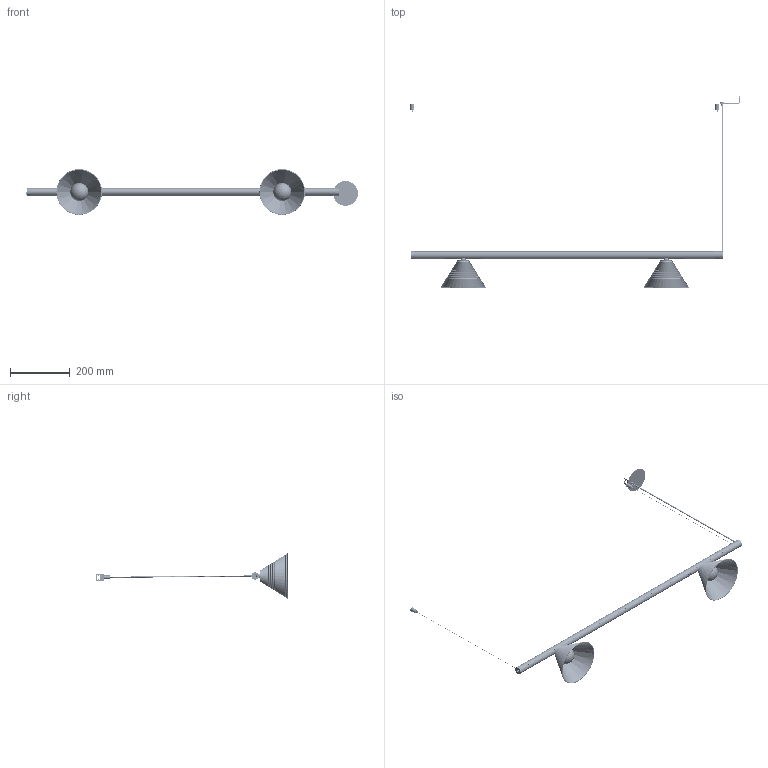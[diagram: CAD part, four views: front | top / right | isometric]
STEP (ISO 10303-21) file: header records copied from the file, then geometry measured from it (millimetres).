
FILE_DESCRIPTION (( 'STEP AP214' ), '1' );
FILE_NAME ('OVAL CONE 10 rec.STEP', '2024-03-15T13:00:23', ( '' ), ( '' ), 'SwSTEP 2.0', 'SolidWorks 2024', '' );
FILE_SCHEMA (( 'AUTOMOTIVE_DESIGN' ));
Length unit declared in the file: millimetre
Products named in the file (38): 04-23DM05-CAMPANA CONE(V1.1)_1; Difusor Negro Oval_0.1m; Tuerca Hembra Conector Jack; Tapa Alimentación Perfil_SCPRE; Tapa Floron Emp. MICRO_Tapa empotarable; Regulador Cable Ø0.6 (Bereta LT1007.0601); eje cable colgante_M8 MICRO; Difusor Negro Oval_0.56m; Ensamble Conector Jack Unión_Alimentación Colgante SCPRE; Rosca Bola_chapa galbanizada(inglass); 04-23DM03-Tope_Adaptador_1.3; Prisionero STEAB M4x4_8; Ensamble Tapa + Tope_Con Conector; Perfil Micro V4_1m; DISIPADOR ALUMINIO BALO Bola Ø60_para bola Ø60; Tapa Unión-Final V5_V5.1 Colgante Union ; Tija Tiny_Inyección ; Ensamble Tensor Micro_Con Cable; Bola_Ø60xT3; Taco Micro_Ø10 M10*5; 04-23DM02-Adaptador_Tapa(V1.2)_24V; Ensamblaje FLORON EMP. MICRO; Tuerca M8_Predeterminada; BOLA CRISTAL OPAL MATE Ø60 CON ROSCA_60; Tapa Micro V5_V5.1; Conector Molex Hembra 43020; CJ02-BALO 60_Surface Ø60; CJ01-ENS_Adaptador 24V_Proyector; Jack_Scpre; CUI_DEVICES_PJ-005B_Ø2.5; Taco cuerpo Micro; Cable acero_0.5m; OVAL CONE 10 rec; Floron U Muelle MICRO; 04-23DM01-Adaptador_Caja_DM01.3; CJ03-ENS-CAMPANA CONE(V1.1); Driver Entity EN1689; Cable_VISUAL Alimentación Micro
Assembly tree (43 placements, depth 5):
  OVAL CONE 10 rec
    Perfil Micro V4_1m
    CJ03-ENS-CAMPANA CONE(V1.1)  x2
      04-23DM05-CAMPANA CONE(V1.1)_1
      CJ02-BALO 60_Surface Ø60
        DISIPADOR ALUMINIO BALO Bola Ø60_para bola Ø60
        BOLA CRISTAL OPAL MATE Ø60 CON ROSCA_60
          Bola_Ø60xT3
          Rosca Bola_chapa galbanizada(inglass)
      CJ01-ENS_Adaptador 24V_Proyector
        04-23DM01-Adaptador_Caja_DM01.3
        04-23DM02-Adaptador_Tapa(V1.2)_24V
        Conector Molex Hembra 43020
        Driver Entity EN1689
        04-23DM03-Tope_Adaptador_1.3  x2
        Tija Tiny_Inyección 
    Difusor Negro Oval_0.1m  x2
    Difusor Negro Oval_0.56m
    Ensamble Tapa + Tope_Con Conector  x2
      Tapa Micro V5_V5.1
      CUI_DEVICES_PJ-005B_Ø2.5
      Tuerca Hembra Conector Jack
    Ensamble Tensor Micro_Con Cable  x2
      Taco Micro_Ø10 M10*5
      Taco cuerpo Micro
      Regulador Cable Ø0.6 (Bereta LT1007.0601)
      Cable acero_0.5m
    Tapa Unión-Final V5_V5.1 Colgante Union   x2
    Ensamble Conector Jack Unión_Alimentación Colgante SCPRE
      Cable_VISUAL Alimentación Micro
      Jack_Scpre
      Tapa Alimentación Perfil_SCPRE
      Prisionero STEAB M4x4_8
    Ensamblaje FLORON EMP. MICRO
      Tapa Floron Emp. MICRO_Tapa empotarable
      Floron U Muelle MICRO
      eje cable colgante_M8 MICRO
      Tuerca M8_Predeterminada
Bounding box: 1111.94 x 642.07 x 153.01 mm (x, y, z)
Volume: 431389.7 mm3; surface area: 485669.9 mm2
Topology: 51 solids, 53 shells, 4486 faces, 11136 edges, 6841 vertices
Faces by surface type: cylinder 1433, plane 1342, cone 973, bspline 395, torus 259, sphere 84
Entity records: 112855 total; most frequent: CARTESIAN_POINT 58351, ORIENTED_EDGE 11594, DIRECTION 10802, EDGE_CURVE 5797, AXIS2_PLACEMENT_3D 3956, VERTEX_POINT 3612, VECTOR 2890, LINE 2890
